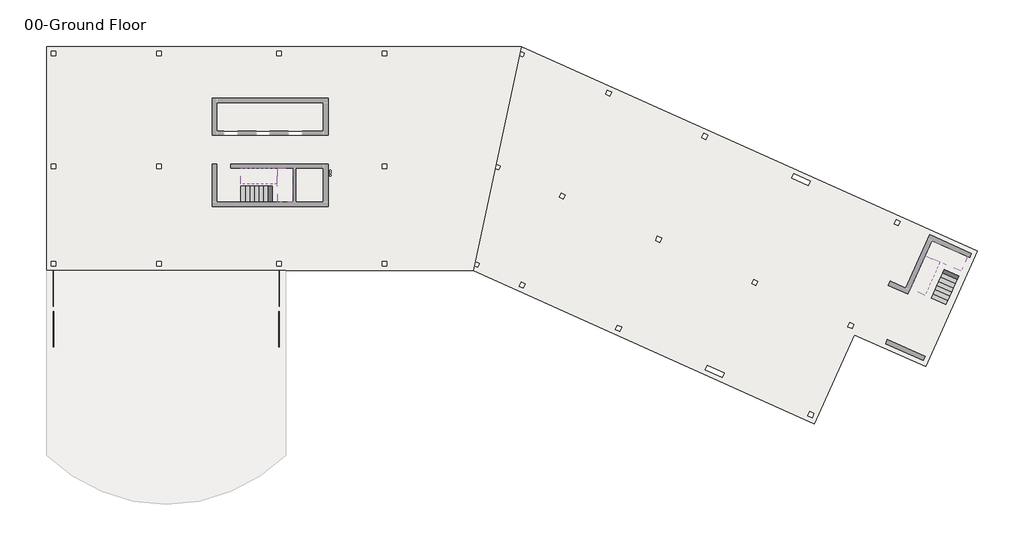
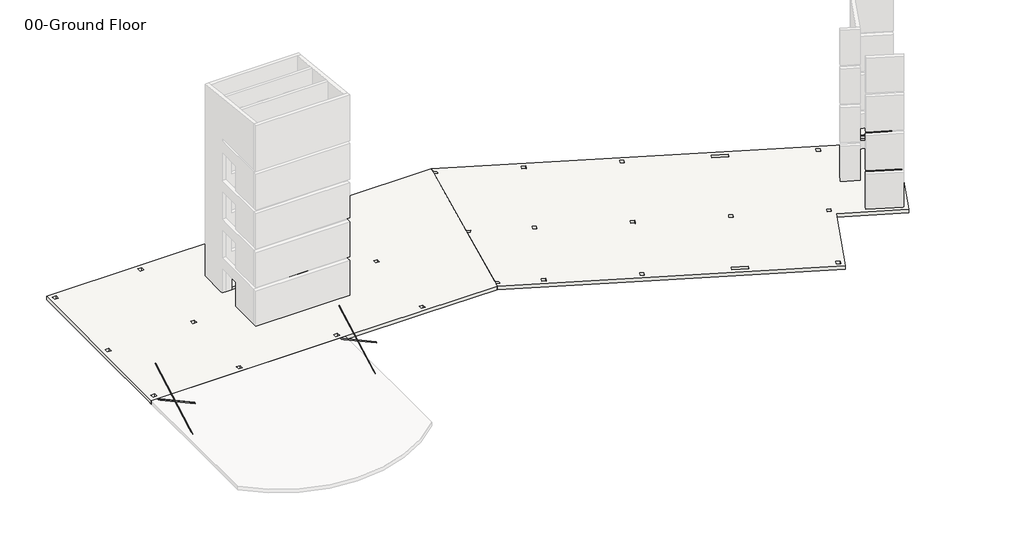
# One storey, part 2 of 2: 4 members, 4 slabs, 4 stair flights.
"""IFC4 building model written with IfcOpenShell, lengths in millimetres."""

from ifc_helpers import new_model, si_unit, frame, origin, place, context, project, spatial, polyline, circle_curve, faceted_brep, transform, mapped, element, save
from ifc_brep_helpers import plane_surface, revolved_surface, advanced_brep
from components import flat_bars_fl_3_8x4_f1b121f7, flat_bars_fl_3_8x4_35c656aa, flat_bars_fl_3_8x4_188fb4ee, flat_bars_fl_3_8x4_168c0369

model = new_model("IFC4")

# Units and contexts
model_context = context("Model", 3, world=origin())
ifc_project = project(units=[si_unit("LENGTHUNIT", "METRE", prefix="MILLI")], contexts=[model_context])

# Site, building, storey
site = spatial("IfcSite", under=ifc_project)
building = spatial("IfcBuilding", under=site)
storey = spatial("IfcBuildingStorey", under=building, Name="00-Ground Floor", Elevation=0.0)

# Members
placement = place(None, origin())
flat_bars_fl_3_8x4_shape = flat_bars_fl_3_8x4_f1b121f7(model_context)
element("IfcMember", 1, ObjectType="Flat Bars : FL 3/8X4", at=placement, inside=storey, context=model_context, shape_type="MappedRepresentation", body=[
    mapped(flat_bars_fl_3_8x4_shape, transform((14998.7, -16998.95, 1344.93), x_axis=(0.0, -0.8764896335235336, 0.48142073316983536), y_axis=(1.0, 0.0, 0.0), z_axis=(0.0, 0.48142073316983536, 0.8764896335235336))),
])
flat_bars_fl_3_8x4_2_shape = flat_bars_fl_3_8x4_35c656aa(model_context)
element("IfcMember", 2, ObjectType="Flat Bars : FL 3/8X4", at=placement, inside=storey, context=model_context, shape_type="MappedRepresentation", body=[
    mapped(flat_bars_fl_3_8x4_2_shape, transform((14989.175, -16998.95, 1344.93), x_axis=(0.0, 0.8764896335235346, 0.4814207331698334), y_axis=(-1.0, 0.0, 0.0), z_axis=(0.0, -0.4814207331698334, 0.8764896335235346))),
])
flat_bars_fl_3_8x4_3_shape = flat_bars_fl_3_8x4_188fb4ee(model_context)
element("IfcMember", 3, ObjectType="Flat Bars : FL 3/8X4", at=placement, inside=storey, context=model_context, shape_type="MappedRepresentation", body=[
    mapped(flat_bars_fl_3_8x4_3_shape, transform((9.525, -16998.95, 1344.93), x_axis=(0.0, 0.8764896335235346, 0.4814207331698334), y_axis=(-1.0, 0.0, 0.0), z_axis=(0.0, -0.4814207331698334, 0.8764896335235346))),
])
flat_bars_fl_3_8x4_4_shape = flat_bars_fl_3_8x4_168c0369(model_context)
element("IfcMember", 4, ObjectType="Flat Bars : FL 3/8X4", at=placement, inside=storey, context=model_context, shape_type="MappedRepresentation", body=[
    mapped(flat_bars_fl_3_8x4_4_shape, transform((0.0, -16998.95, 1344.93), x_axis=(0.0, -0.8764896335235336, 0.48142073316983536), y_axis=(1.0, 0.0, 0.0), z_axis=(0.0, 0.48142073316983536, 0.8764896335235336))),
])

# Slabs
element("IfcSlab", 5, ObjectType="7\" Thickness", at=placement, inside=storey, context=model_context, shape_type="Brep", body=[
    faceted_brep([(14884.4, -8826.5, 1775.0117647), (14903.45, -8826.5, 1775.0117647), (14903.45, -9893.3, 1775.0117647), (15167.2458186, -9893.3, 1775.0117647), (15951.2, -9893.3, 1775.0117647), (15951.2, -7633.3081651, 1775.0117647), (14906.3541814, -7633.3081651, 1775.0117647), (14884.4, -7633.3081651, 1775.0117647), (14865.35, -7633.3081651, 1775.0117647), (14865.35, -8700.1081651, 1775.0117647), (14884.4, -8700.1081651, 1775.0117647), (14884.4, -8826.5, 1597.2117647), (14903.45, -8826.5, 1597.2117647), (14903.45, -8826.5, 1577.7882353), (14903.45, -8826.5, 1426.5203527), (14903.45, -9893.3, 1426.5203527), (14903.45, -9893.3, 1577.7882353), (15167.2458186, -9893.3, 1597.2117647), (15951.2, -9893.3, 1597.2117647), (15951.2, -7633.3081651, 1597.2117647), (14906.3541814, -7633.3081651, 1597.2117647), (14884.4, -7633.3081651, 1611.4174115), (14865.35, -7633.3081651, 1623.7438821), (14865.35, -8700.1081651, 1623.7438821), (14884.4, -8700.1081651, 1611.4174115), (14884.4, -8700.1081651, 1597.2117647), (14906.3541814, -8700.1081651, 1597.2117647), (15167.2458186, -8826.5, 1597.2117647)], [[[0, 1, 2, 3, 4, 5, 6, 7, 8, 9, 10]], [[1, 0, 11, 12]], [[2, 1, 12, 13, 14, 15, 16]], [[2, 16, 15, 17, 18, 4, 3]], [[5, 4, 18, 19]], [[5, 19, 20, 21, 7, 6]], [[8, 7, 21, 22]], [[9, 8, 22, 23]], [[10, 9, 23, 24]], [[0, 10, 24, 25, 11]], [[25, 26, 20, 19, 18, 17, 27, 12, 11]], [[26, 25, 24]], [[27, 17, 15, 14]], [[12, 27, 14, 13]], [[20, 26, 24, 23, 22, 21]]]),
])
element("IfcSlab", 6, ObjectType="7\" Thickness", at=placement, inside=storey, context=model_context, shape_type="Brep", body=[
    faceted_brep([(59335.95414, -14064.6614634, 1775.0117647), (59343.7599937, -14047.2841463, 1775.0117647), (60316.8897498, -14484.4119512, 1775.0117647), (60424.981695, -14243.7786923, 1775.0117647), (60746.211701, -13528.6595122, 1775.0117647), (58382.896579, -12467.0634146, 1775.0117647), (57954.7646338, -13420.1666736, 1775.0117647), (57945.7687742, -13440.1931707, 1775.0117647), (57937.9629205, -13457.5704878, 1775.0117647), (58911.0926766, -13894.6982927, 1775.0117647), (58918.8985303, -13877.3209756, 1775.0117647), (59335.95414, -14064.6614634, 1597.2117647), (59343.7599937, -14047.2841463, 1597.2117647), (59343.7599937, -14047.2841463, 1577.7882353), (59343.7599937, -14047.2841463, 1426.5203527), (60316.8897498, -14484.4119512, 1426.5203527), (60316.8897498, -14484.4119512, 1577.7882353), (60424.981695, -14243.7786923, 1597.2117647), (60746.211701, -13528.6595122, 1597.2117647), (58382.896579, -12467.0634146, 1597.2117647), (57954.7646338, -13420.1666736, 1597.2117647), (57945.7687742, -13440.1931707, 1611.4174115), (57937.9629205, -13457.5704878, 1623.7438821), (58911.0926766, -13894.6982927, 1623.7438821), (58918.8985303, -13877.3209756, 1611.4174115), (58918.8985303, -13877.3209756, 1597.2117647), (58927.8943899, -13857.2944785, 1597.2117647), (59451.8519389, -13806.6508874, 1597.2117647)], [[[0, 1, 2, 3, 4, 5, 6, 7, 8, 9, 10]], [[1, 0, 11, 12]], [[2, 1, 12, 13, 14, 15, 16]], [[2, 16, 15, 17, 18, 4, 3]], [[5, 4, 18, 19]], [[5, 19, 20, 21, 7, 6]], [[8, 7, 21, 22]], [[9, 8, 22, 23]], [[10, 9, 23, 24]], [[0, 10, 24, 25, 11]], [[25, 26, 20, 19, 18, 17, 27, 12, 11]], [[26, 25, 24]], [[27, 17, 15, 14]], [[12, 27, 14, 13]], [[20, 26, 24, 23, 22, 21]]]),
])
element("IfcSlab", 7, ObjectType="RC Slab 12\"", at=placement, inside=storey, context=model_context, shape_type="SolidModel", body=[
    faceted_brep([(10858.5, -3289.3, -304.8), (12738.1, -3289.3, -304.8), (12992.1, -3289.3, -304.8), (14871.7, -3289.3, -304.8), (15125.7, -3289.3, -304.8), (17945.1, -3289.3, -304.8), (17945.1, -5168.9, -304.8), (15125.7, -5168.9, -304.8), (14871.7, -5168.9, -304.8), (12992.1, -5168.9, -304.8), (12738.1, -5168.9, -304.8), (10858.5, -5168.9, -304.8), (17945.1, -3289.3, 0.0), (15125.7, -3289.3, 0.0), (14871.7, -3289.3, 0.0), (12992.1, -3289.3, 0.0), (12738.1, -3289.3, 0.0), (10858.5, -3289.3, 0.0), (10858.5, -5168.9, 0.0), (12738.1, -5168.9, 0.0), (12992.1, -5168.9, 0.0), (14871.7, -5168.9, 0.0), (15125.7, -5168.9, 0.0), (17945.1, -5168.9, 0.0)], [[[0, 1, 2, 3, 4, 5, 6, 7, 8, 9, 10, 11]], [[12, 13, 14, 15, 16, 17, 18, 19, 20, 21, 22, 23]], [[5, 4, 3, 2, 1, 0, 17, 16, 15, 14, 13, 12]], [[0, 11, 18, 17]], [[6, 23, 22, 21, 20, 19, 18, 11, 10, 9, 8, 7]], [[6, 5, 12, 23]]]),
    advanced_brep(
    [(-457.2, 457.2, -304.8), (7010.4, 457.2, -304.8), (14998.7, 457.2, -304.8), (22009.1, 457.2, -304.8), (31098.7387393, 457.2, -304.8), (30902.7958822, -457.2, -304.8), (28099.7244536, -13538.2, -304.8), (27903.7815965, -14452.6, -304.8), (22009.1, -14452.6, -304.8), (15455.9, -14452.6, -304.8), (-457.2, -14452.6, -304.8), (-457.2, -13995.4, -304.8), (-457.2, -7505.7, -304.8), (18347.8020543, -8109.4381113, -304.8), (18449.4020543, -8109.4381113, -304.8), (18347.8020543, -7957.0381113, -304.8), (18449.4020543, -7957.0381113, -304.8), (18347.8020543, -7804.6381113, -304.8), (18449.4020543, -7804.6381113, -304.8), (152.4, -152.4, -304.8), (152.4, 152.4, -304.8), (-152.4, 152.4, -304.8), (-152.4, -152.4, -304.8), (7162.8, -152.4, -304.8), (7162.8, 152.4, -304.8), (6858.0, 152.4, -304.8), (6858.0, -152.4, -304.8), (15151.1, -152.4, -304.8), (15151.1, 152.4, -304.8), (14846.3, 152.4, -304.8), (14846.3, -152.4, -304.8), (22161.5, -152.4, -304.8), (22161.5, 152.4, -304.8), (21856.7, 152.4, -304.8), (21856.7, -152.4, -304.8), (22161.5, -7658.1, -304.8), (22161.5, -7353.3, -304.8), (21856.7, -7353.3, -304.8), (21856.7, -7658.1, -304.8), (7162.8, -7658.1, -304.8), (7162.8, -7353.3, -304.8), (6858.0, -7353.3, -304.8), (6858.0, -7658.1, -304.8), (152.4, -7658.1, -304.8), (152.4, -7353.3, -304.8), (-152.4, -7353.3, -304.8), (-152.4, -7658.1, -304.8), (152.4, -14147.8, -304.8), (152.4, -13843.0, -304.8), (-152.4, -13843.0, -304.8), (-152.4, -14147.8, -304.8), (15151.1, -14147.8, -304.8), (15151.1, -13843.0, -304.8), (14846.3, -13843.0, -304.8), (14846.3, -14147.8, -304.8), (22161.5, -14147.8, -304.8), (22161.5, -13843.0, -304.8), (21856.7, -13843.0, -304.8), (21856.7, -14147.8, -304.8), (7162.8, -14147.8, -304.8), (7162.8, -13843.0, -304.8), (6858.0, -13843.0, -304.8), (6858.0, -14147.8, -304.8), (10553.7, -5422.9, -304.8), (18249.9, -5422.9, -304.8), (18249.9, -2984.5, -304.8), (15252.7, -2984.5, -304.8), (14744.7, -2984.5, -304.8), (10553.7, -2984.5, -304.8), (31098.7387393, 457.2, 0.0), (-457.2, 457.2, 0.0), (-457.2, -14452.6, 0.0), (15455.9, -14452.6, 0.0), (27903.7815965, -14452.6, 0.0), (18449.4020543, -8109.4381113, 0.0), (18347.8020543, -8109.4381113, 0.0), (18449.4020543, -7957.0381113, 0.0), (18347.8020543, -7957.0381113, 0.0), (18449.4020543, -7804.6381113, 0.0), (18347.8020543, -7804.6381113, 0.0), (18249.9, -2984.5, 0.0), (18249.9, -3289.3, 0.0), (18249.9, -5422.9, 0.0), (17945.1, -5422.9, 0.0), (10553.7, -5422.9, 0.0), (10553.7, -5168.9, 0.0), (10553.7, -2984.5, 0.0), (10858.5, -2984.5, 0.0), (152.4, 152.4, 0.0), (152.4, -152.4, 0.0), (-152.4, -152.4, 0.0), (-152.4, 152.4, 0.0), (7162.8, 152.4, 0.0), (7162.8, -152.4, 0.0), (6858.0, -152.4, 0.0), (6858.0, 152.4, 0.0), (15151.1, 152.4, 0.0), (15151.1, -152.4, 0.0), (14846.3, -152.4, 0.0), (14846.3, 152.4, 0.0), (22161.5, 152.4, 0.0), (22161.5, -152.4, 0.0), (21856.7, -152.4, 0.0), (21856.7, 152.4, 0.0), (22161.5, -7353.3, 0.0), (22161.5, -7658.1, 0.0), (21856.7, -7658.1, 0.0), (21856.7, -7353.3, 0.0), (7162.8, -7353.3, 0.0), (7162.8, -7658.1, 0.0), (6858.0, -7658.1, 0.0), (6858.0, -7353.3, 0.0), (152.4, -7353.3, 0.0), (152.4, -7658.1, 0.0), (-152.4, -7658.1, 0.0), (-152.4, -7353.3, 0.0), (152.4, -13843.0, 0.0), (152.4, -14147.8, 0.0), (-152.4, -14147.8, 0.0), (-152.4, -13843.0, 0.0), (15151.1, -13843.0, 0.0), (15151.1, -14147.8, 0.0), (14846.3, -14147.8, 0.0), (14846.3, -13843.0, 0.0), (22161.5, -13843.0, 0.0), (22161.5, -14147.8, 0.0), (21856.7, -14147.8, 0.0), (21856.7, -13843.0, 0.0), (7162.8, -13843.0, 0.0), (7162.8, -14147.8, 0.0), (6858.0, -14147.8, 0.0), (6858.0, -13843.0, 0.0)],
    [
        (0, 1),
        (1, 2),
        (2, 3),
        (3, 4),
        (4, 5),
        (5, 6),
        (6, 7),
        (7, 8),
        (8, 9),
        (9, 10),
        (10, 11),
        (11, 12),
        (12, 0),
        (13, 14, circle_curve(frame((18398.6020543, -8109.4381113, -304.8), z_axis=(0.0, 0.0, 1.0), x_axis=(1.0, 0.0, 0.0)), 50.8)),
        (14, 13, circle_curve(frame((18398.6020543, -8109.4381113, -304.8), z_axis=(0.0, 0.0, 1.0), x_axis=(1.0, 0.0, 0.0)), 50.8)),
        (15, 16, circle_curve(frame((18398.6020543, -7957.0381113, -304.8), z_axis=(0.0, 0.0, 1.0), x_axis=(1.0, 0.0, 0.0)), 50.8)),
        (16, 15, circle_curve(frame((18398.6020543, -7957.0381113, -304.8), z_axis=(0.0, 0.0, 1.0), x_axis=(1.0, 0.0, 0.0)), 50.8)),
        (17, 18, circle_curve(frame((18398.6020543, -7804.6381113, -304.8), z_axis=(0.0, 0.0, 1.0), x_axis=(1.0, 0.0, 0.0)), 50.8)),
        (18, 17, circle_curve(frame((18398.6020543, -7804.6381113, -304.8), z_axis=(0.0, 0.0, 1.0), x_axis=(1.0, 0.0, 0.0)), 50.8)),
        (19, 20),
        (20, 21),
        (21, 22),
        (22, 19),
        (23, 24),
        (24, 25),
        (25, 26),
        (26, 23),
        (27, 28),
        (28, 29),
        (29, 30),
        (30, 27),
        (31, 32),
        (32, 33),
        (33, 34),
        (34, 31),
        (35, 36),
        (36, 37),
        (37, 38),
        (38, 35),
        (39, 40),
        (40, 41),
        (41, 42),
        (42, 39),
        (43, 44),
        (44, 45),
        (45, 46),
        (46, 43),
        (47, 48),
        (48, 49),
        (49, 50),
        (50, 47),
        (51, 52),
        (52, 53),
        (53, 54),
        (54, 51),
        (55, 56),
        (56, 57),
        (57, 58),
        (58, 55),
        (59, 60),
        (60, 61),
        (61, 62),
        (62, 59),
        (63, 64),
        (64, 65),
        (65, 66),
        (66, 67),
        (67, 68),
        (68, 63),
        (69, 70),
        (70, 71),
        (71, 72),
        (72, 73),
        (73, 69),
        (74, 75, circle_curve(frame((18398.6020543, -8109.4381113, 0.0), z_axis=(0.0, 0.0, -1.0), x_axis=(1.0, 0.0, 0.0)), 50.8)),
        (75, 74, circle_curve(frame((18398.6020543, -8109.4381113, 0.0), z_axis=(0.0, 0.0, -1.0), x_axis=(1.0, 0.0, 0.0)), 50.8)),
        (76, 77, circle_curve(frame((18398.6020543, -7957.0381113, 0.0), z_axis=(0.0, 0.0, -1.0), x_axis=(1.0, 0.0, 0.0)), 50.8)),
        (77, 76, circle_curve(frame((18398.6020543, -7957.0381113, 0.0), z_axis=(0.0, 0.0, -1.0), x_axis=(1.0, 0.0, 0.0)), 50.8)),
        (78, 79, circle_curve(frame((18398.6020543, -7804.6381113, 0.0), z_axis=(0.0, 0.0, -1.0), x_axis=(1.0, 0.0, 0.0)), 50.8)),
        (79, 78, circle_curve(frame((18398.6020543, -7804.6381113, 0.0), z_axis=(0.0, 0.0, -1.0), x_axis=(1.0, 0.0, 0.0)), 50.8)),
        (80, 81),
        (81, 82),
        (82, 83),
        (83, 84),
        (84, 85),
        (85, 86),
        (86, 87),
        (87, 80),
        (88, 89),
        (89, 90),
        (90, 91),
        (91, 88),
        (92, 93),
        (93, 94),
        (94, 95),
        (95, 92),
        (96, 97),
        (97, 98),
        (98, 99),
        (99, 96),
        (100, 101),
        (101, 102),
        (102, 103),
        (103, 100),
        (104, 105),
        (105, 106),
        (106, 107),
        (107, 104),
        (108, 109),
        (109, 110),
        (110, 111),
        (111, 108),
        (112, 113),
        (113, 114),
        (114, 115),
        (115, 112),
        (116, 117),
        (117, 118),
        (118, 119),
        (119, 116),
        (120, 121),
        (121, 122),
        (122, 123),
        (123, 120),
        (124, 125),
        (125, 126),
        (126, 127),
        (127, 124),
        (128, 129),
        (129, 130),
        (130, 131),
        (131, 128),
        (0, 70),
        (69, 4),
        (73, 7),
        (71, 10),
        (13, 75),
        (74, 14),
        (15, 77),
        (76, 16),
        (17, 79),
        (78, 18),
        (65, 80),
        (86, 68),
        (64, 82),
        (84, 63),
        (19, 89),
        (88, 20),
        (22, 90),
        (21, 91),
        (23, 93),
        (92, 24),
        (26, 94),
        (25, 95),
        (27, 97),
        (96, 28),
        (30, 98),
        (29, 99),
        (31, 101),
        (100, 32),
        (34, 102),
        (33, 103),
        (35, 105),
        (104, 36),
        (38, 106),
        (37, 107),
        (39, 109),
        (108, 40),
        (42, 110),
        (41, 111),
        (43, 113),
        (112, 44),
        (46, 114),
        (45, 115),
        (47, 117),
        (116, 48),
        (50, 118),
        (49, 119),
        (51, 121),
        (120, 52),
        (54, 122),
        (53, 123),
        (55, 125),
        (124, 56),
        (58, 126),
        (57, 127),
        (59, 129),
        (128, 60),
        (62, 130),
        (61, 131),
    ],
    [
        plane_surface(frame((0.0, 457.2, -304.8), z_axis=(0.0, 0.0, -1.0), x_axis=(1.0, 0.0, 0.0))),
        plane_surface(frame((0.0, 457.2, 0.0), z_axis=(0.0, 0.0, 1.0), x_axis=(-1.0, 0.0, 0.0))),
        plane_surface(frame((-457.2, 457.2, -304.8), z_axis=(0.0, 1.0, 0.0), x_axis=(0.0, 0.0, 1.0))),
        plane_surface(frame((31098.7387393, 457.2, -304.8), z_axis=(0.9778024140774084, -0.2095290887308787, 0.0), x_axis=(0.0, 0.0, 1.0))),
        plane_surface(frame((27903.7815965, -14452.6, -304.8), z_axis=(0.0, -1.0, 0.0), x_axis=(0.0, 0.0, 1.0))),
        plane_surface(frame((-457.2, -14452.6, -304.8), z_axis=(-1.0, 0.0, 0.0), x_axis=(0.0, 0.0, 1.0))),
        revolved_surface(polyline([(18449.4020543, -8109.4381113, 0.0), (18449.4020543, -8109.4381113, -304.8)]), (18398.6020543, -8109.4381113, -609.6), (0.0, 0.0, 1.0)),
        revolved_surface(polyline([(18449.4020543, -7957.0381113, 0.0), (18449.4020543, -7957.0381113, -304.8)]), (18398.6020543, -7957.0381113, -609.6), (0.0, 0.0, 1.0)),
        revolved_surface(polyline([(18449.4020543, -7804.6381113, 0.0), (18449.4020543, -7804.6381113, -304.8)]), (18398.6020543, -7804.6381113, -609.6), (0.0, 0.0, 1.0)),
        plane_surface(frame((17694.8895727, -2984.5, -2133.6), z_axis=(0.0, -1.0, 0.0), x_axis=(-1.0, 0.0, 0.0))),
        plane_surface(frame((18249.9, -6083.3, -2133.6), z_axis=(-1.0, 0.0, 0.0), x_axis=(0.0, 1.0, 0.0))),
        plane_surface(frame((10553.7, -5829.3, -2133.6), z_axis=(1.0, 0.0, 0.0), x_axis=(0.0, -1.0, 0.0))),
        plane_surface(frame((10706.1, -5422.9, -2133.6), z_axis=(0.0, 1.0, 0.0), x_axis=(1.0, 0.0, 0.0))),
        plane_surface(frame((152.4, -152.4, 10058.4), z_axis=(-1.0, 0.0, 0.0), x_axis=(0.0, 0.0, -1.0))),
        plane_surface(frame((-152.4, -152.4, 10058.4), z_axis=(0.0, 1.0, 0.0), x_axis=(0.0, 0.0, -1.0))),
        plane_surface(frame((-152.4, 152.4, 10058.4), z_axis=(1.0, 0.0, 0.0), x_axis=(0.0, 0.0, -1.0))),
        plane_surface(frame((152.4, 152.4, 10058.4), z_axis=(0.0, -1.0, 0.0), x_axis=(0.0, 0.0, -1.0))),
        plane_surface(frame((7162.8, -152.4, 10058.4), z_axis=(-1.0, 0.0, 0.0), x_axis=(0.0, 0.0, -1.0))),
        plane_surface(frame((6858.0, -152.4, 10058.4), z_axis=(0.0, 1.0, 0.0), x_axis=(0.0, 0.0, -1.0))),
        plane_surface(frame((6858.0, 152.4, 10058.4), z_axis=(1.0, 0.0, 0.0), x_axis=(0.0, 0.0, -1.0))),
        plane_surface(frame((7162.8, 152.4, 10058.4), z_axis=(0.0, -1.0, 0.0), x_axis=(0.0, 0.0, -1.0))),
        plane_surface(frame((15151.1, -152.4, 10058.4), z_axis=(-1.0, 0.0, 0.0), x_axis=(0.0, 0.0, -1.0))),
        plane_surface(frame((14846.3, -152.4, 10058.4), z_axis=(0.0, 1.0, 0.0), x_axis=(0.0, 0.0, -1.0))),
        plane_surface(frame((14846.3, 152.4, 10058.4), z_axis=(1.0, 0.0, 0.0), x_axis=(0.0, 0.0, -1.0))),
        plane_surface(frame((15151.1, 152.4, 10058.4), z_axis=(0.0, -1.0, 0.0), x_axis=(0.0, 0.0, -1.0))),
        plane_surface(frame((22161.5, -152.4, 10058.4), z_axis=(-1.0, 0.0, 0.0), x_axis=(0.0, 0.0, -1.0))),
        plane_surface(frame((21856.7, -152.4, 10058.4), z_axis=(0.0, 1.0, 0.0), x_axis=(0.0, 0.0, -1.0))),
        plane_surface(frame((21856.7, 152.4, 10058.4), z_axis=(1.0, 0.0, 0.0), x_axis=(0.0, 0.0, -1.0))),
        plane_surface(frame((22161.5, 152.4, 10058.4), z_axis=(0.0, -1.0, 0.0), x_axis=(0.0, 0.0, -1.0))),
        plane_surface(frame((22161.5, -7658.1, 10058.4), z_axis=(-1.0, 0.0, 0.0), x_axis=(0.0, 0.0, -1.0))),
        plane_surface(frame((21856.7, -7658.1, 10058.4), z_axis=(0.0, 1.0, 0.0), x_axis=(0.0, 0.0, -1.0))),
        plane_surface(frame((21856.7, -7353.3, 10058.4), z_axis=(1.0, 0.0, 0.0), x_axis=(0.0, 0.0, -1.0))),
        plane_surface(frame((22161.5, -7353.3, 10058.4), z_axis=(0.0, -1.0, 0.0), x_axis=(0.0, 0.0, -1.0))),
        plane_surface(frame((7162.8, -7658.1, 10058.4), z_axis=(-1.0, 0.0, 0.0), x_axis=(0.0, 0.0, -1.0))),
        plane_surface(frame((6858.0, -7658.1, 10058.4), z_axis=(0.0, 1.0, 0.0), x_axis=(0.0, 0.0, -1.0))),
        plane_surface(frame((6858.0, -7353.3, 10058.4), z_axis=(1.0, 0.0, 0.0), x_axis=(0.0, 0.0, -1.0))),
        plane_surface(frame((7162.8, -7353.3, 10058.4), z_axis=(0.0, -1.0, 0.0), x_axis=(0.0, 0.0, -1.0))),
        plane_surface(frame((152.4, -7658.1, 10058.4), z_axis=(-1.0, 0.0, 0.0), x_axis=(0.0, 0.0, -1.0))),
        plane_surface(frame((-152.4, -7658.1, 10058.4), z_axis=(0.0, 1.0, 0.0), x_axis=(0.0, 0.0, -1.0))),
        plane_surface(frame((-152.4, -7353.3, 10058.4), z_axis=(1.0, 0.0, 0.0), x_axis=(0.0, 0.0, -1.0))),
        plane_surface(frame((152.4, -7353.3, 10058.4), z_axis=(0.0, -1.0, 0.0), x_axis=(0.0, 0.0, -1.0))),
        plane_surface(frame((152.4, -14147.8, 10058.4), z_axis=(-1.0, 0.0, 0.0), x_axis=(0.0, 0.0, -1.0))),
        plane_surface(frame((-152.4, -14147.8, 10058.4), z_axis=(0.0, 1.0, 0.0), x_axis=(0.0, 0.0, -1.0))),
        plane_surface(frame((-152.4, -13843.0, 10058.4), z_axis=(1.0, 0.0, 0.0), x_axis=(0.0, 0.0, -1.0))),
        plane_surface(frame((152.4, -13843.0, 10058.4), z_axis=(0.0, -1.0, 0.0), x_axis=(0.0, 0.0, -1.0))),
        plane_surface(frame((15151.1, -14147.8, 10058.4), z_axis=(-1.0, 0.0, 0.0), x_axis=(0.0, 0.0, -1.0))),
        plane_surface(frame((14846.3, -14147.8, 10058.4), z_axis=(0.0, 1.0, 0.0), x_axis=(0.0, 0.0, -1.0))),
        plane_surface(frame((14846.3, -13843.0, 10058.4), z_axis=(1.0, 0.0, 0.0), x_axis=(0.0, 0.0, -1.0))),
        plane_surface(frame((15151.1, -13843.0, 10058.4), z_axis=(0.0, -1.0, 0.0), x_axis=(0.0, 0.0, -1.0))),
        plane_surface(frame((22161.5, -14147.8, 10058.4), z_axis=(-1.0, 0.0, 0.0), x_axis=(0.0, 0.0, -1.0))),
        plane_surface(frame((21856.7, -14147.8, 10058.4), z_axis=(0.0, 1.0, 0.0), x_axis=(0.0, 0.0, -1.0))),
        plane_surface(frame((21856.7, -13843.0, 10058.4), z_axis=(1.0, 0.0, 0.0), x_axis=(0.0, 0.0, -1.0))),
        plane_surface(frame((22161.5, -13843.0, 10058.4), z_axis=(0.0, -1.0, 0.0), x_axis=(0.0, 0.0, -1.0))),
        plane_surface(frame((7162.8, -14147.8, 10058.4), z_axis=(-1.0, 0.0, 0.0), x_axis=(0.0, 0.0, -1.0))),
        plane_surface(frame((6858.0, -14147.8, 10058.4), z_axis=(0.0, 1.0, 0.0), x_axis=(0.0, 0.0, -1.0))),
        plane_surface(frame((6858.0, -13843.0, 10058.4), z_axis=(1.0, 0.0, 0.0), x_axis=(0.0, 0.0, -1.0))),
        plane_surface(frame((7162.8, -13843.0, 10058.4), z_axis=(0.0, -1.0, 0.0), x_axis=(0.0, 0.0, -1.0))),
    ],
    [
        (0, [[1, 2, 3, 4, 5, 6, 7, 8, 9, 10, 11, 12, 13], [14, 15], [16, 17], [18, 19], [20, 21, 22, 23], [24, 25, 26, 27], [28, 29, 30, 31], [32, 33, 34, 35], [36, 37, 38, 39], [40, 41, 42, 43], [44, 45, 46, 47], [48, 49, 50, 51], [52, 53, 54, 55], [56, 57, 58, 59], [60, 61, 62, 63], [64, 65, 66, 67, 68, 69]]),
        (1, [[70, 71, 72, 73, 74], [75, 76], [77, 78], [79, 80], [81, 82, 83, 84, 85, 86, 87, 88], [89, 90, 91, 92], [93, 94, 95, 96], [97, 98, 99, 100], [101, 102, 103, 104], [105, 106, 107, 108], [109, 110, 111, 112], [113, 114, 115, 116], [117, 118, 119, 120], [121, 122, 123, 124], [125, 126, 127, 128], [129, 130, 131, 132]]),
        (2, [[-4, -3, -2, -1, 133, -70, 134]]),
        (3, [[-7, -6, -5, -134, -74, 135]]),
        (4, [[-10, -9, -8, -135, -73, -72, 136]]),
        (5, [[-13, -12, -11, -136, -71, -133]]),
        (6, [[137, -75, 138, -14]]),
        (6, [[-137, -15, -138, -76]]),
        (7, [[139, -77, 140, -16]]),
        (7, [[-139, -17, -140, -78]]),
        (8, [[141, -79, 142, -18]]),
        (8, [[-141, -19, -142, -80]]),
        (9, [[143, -88, -87, 144, -68, -67, -66]]),
        (10, [[-143, -65, 145, -82, -81]]),
        (11, [[-144, -86, -85, 146, -69]]),
        (12, [[-146, -84, -83, -145, -64]]),
        (13, [[147, -89, 148, -20]]),
        (14, [[-147, -23, 149, -90]]),
        (15, [[-149, -22, 150, -91]]),
        (16, [[-150, -21, -148, -92]]),
        (17, [[151, -93, 152, -24]]),
        (18, [[-151, -27, 153, -94]]),
        (19, [[-153, -26, 154, -95]]),
        (20, [[-154, -25, -152, -96]]),
        (21, [[155, -97, 156, -28]]),
        (22, [[-155, -31, 157, -98]]),
        (23, [[-157, -30, 158, -99]]),
        (24, [[-158, -29, -156, -100]]),
        (25, [[159, -101, 160, -32]]),
        (26, [[-159, -35, 161, -102]]),
        (27, [[-161, -34, 162, -103]]),
        (28, [[-162, -33, -160, -104]]),
        (29, [[163, -105, 164, -36]]),
        (30, [[-163, -39, 165, -106]]),
        (31, [[-165, -38, 166, -107]]),
        (32, [[-166, -37, -164, -108]]),
        (33, [[167, -109, 168, -40]]),
        (34, [[-167, -43, 169, -110]]),
        (35, [[-169, -42, 170, -111]]),
        (36, [[-170, -41, -168, -112]]),
        (37, [[171, -113, 172, -44]]),
        (38, [[-171, -47, 173, -114]]),
        (39, [[-173, -46, 174, -115]]),
        (40, [[-174, -45, -172, -116]]),
        (41, [[175, -117, 176, -48]]),
        (42, [[-175, -51, 177, -118]]),
        (43, [[-177, -50, 178, -119]]),
        (44, [[-178, -49, -176, -120]]),
        (45, [[179, -121, 180, -52]]),
        (46, [[-179, -55, 181, -122]]),
        (47, [[-181, -54, 182, -123]]),
        (48, [[-182, -53, -180, -124]]),
        (49, [[183, -125, 184, -56]]),
        (50, [[-183, -59, 185, -126]]),
        (51, [[-185, -58, 186, -127]]),
        (52, [[-186, -57, -184, -128]]),
        (53, [[187, -129, 188, -60]]),
        (54, [[-187, -63, 189, -130]]),
        (55, [[-189, -62, 190, -131]]),
        (56, [[-190, -61, -188, -132]]),
    ],
),
])
element("IfcSlab", 8, ObjectType="RC Slab 12\"", at=placement, inside=storey, context=model_context, shape_type="Brep", body=[
    faceted_brep([(61413.0546278, -13159.9258537, -304.8), (57962.8673107, -20840.7, -304.8), (53236.2370668, -18717.5078049, -304.8), (50577.0429205, -24637.3804878, -304.8), (37370.2819449, -18704.9317073, -304.8), (27903.7815965, -14452.6, -304.8), (27969.0988162, -14147.786308, -304.8), (28217.3432689, -14259.3121951, -304.8), (28342.2369275, -13981.275122, -304.8), (28034.4045592, -13843.0124873, -304.8), (28099.7244536, -13538.2, -304.8), (29359.7488162, -7658.086308, -304.8), (29607.9932689, -7769.6121951, -304.8), (29732.8869275, -7491.575122, -304.8), (29425.0545592, -7353.3124873, -304.8), (30902.7958822, -457.2, -304.8), (30968.1131019, -152.386308, -304.8), (31216.3575546, -263.9121951, -304.8), (31341.2512132, 14.124878, -304.8), (31033.4188449, 152.3875127, -304.8), (31098.7387393, 457.2, -304.8), (43479.6634083, -5104.284878, -304.8), (37098.9356034, -2572.2146341, -304.8), (36820.8985303, -2447.3209756, -304.8), (36696.0048717, -2725.3580488, -304.8), (36974.0419449, -2850.2517073, -304.8), (43493.7882864, -5444.7687805, -304.8), (43215.7512132, -5319.875122, -304.8), (43090.8575546, -5597.9121951, -304.8), (43368.8946278, -5722.8058537, -304.8), (56283.4936522, -11189.8770732, -304.8), (56005.456579, -11064.9834146, -304.8), (55880.5629205, -11343.0204878, -304.8), (56158.5999937, -11467.9141463, -304.8), (53207.9873107, -18036.54, -304.8), (52929.9502376, -17911.6463415, -304.8), (52805.056579, -18189.6834146, -304.8), (53083.0936522, -18314.5770732, -304.8), (50548.7931644, -23956.4126829, -304.8), (50270.7560912, -23831.5190244, -304.8), (50145.8624327, -24109.5560976, -304.8), (50423.8995059, -24234.4497561, -304.8), (37759.0877985, -18211.3043902, -304.8), (37481.0507254, -18086.4107317, -304.8), (37356.1570668, -18364.4478049, -304.8), (37634.19414, -18489.3414634, -304.8), (31364.2351156, -15338.7502439, -304.8), (31086.1980425, -15213.8565854, -304.8), (30961.3043839, -15491.8936585, -304.8), (31239.3414571, -15616.7873171, -304.8), (34023.429262, -9418.877561, -304.8), (33745.3921888, -9293.9839024, -304.8), (33620.4985303, -9572.0209756, -304.8), (33898.5356034, -9696.9146341, -304.8), (40418.2819449, -12291.4317073, -304.8), (40140.2448717, -12166.5380488, -304.8), (40015.3512132, -12444.575122, -304.8), (40293.3882864, -12569.4687805, -304.8), (46813.1346278, -15163.9858537, -304.8), (46535.0975546, -15039.0921951, -304.8), (46410.2038961, -15317.1292683, -304.8), (46688.2409693, -15442.0229268, -304.8), (43333.95414, -21049.6614634, -304.8), (44446.1024327, -21549.2360976, -304.8), (44570.9960912, -21271.1990244, -304.8), (43458.8477985, -20771.6243902, -304.8), (49068.6546278, -8283.1258537, -304.8), (50180.8029205, -8782.7004878, -304.8), (50305.696579, -8504.6634146, -304.8), (49193.5482864, -8005.0887805, -304.8), (57962.8673107, -20840.7, 0.0), (61413.0546278, -13159.9258537, 0.0), (31098.7387393, 457.2, 0.0), (31033.4244536, 152.4, 0.0), (31341.2512132, 14.124878, 0.0), (31216.3575546, -263.9121951, 0.0), (30968.1131019, -152.386308, 0.0), (29425.0601679, -7353.3, 0.0), (29732.8869275, -7491.575122, 0.0), (29607.9932689, -7769.6121951, 0.0), (29359.7488162, -7658.086308, 0.0), (28034.4101679, -13843.0, 0.0), (28342.2369275, -13981.275122, 0.0), (28217.3432689, -14259.3121951, 0.0), (27969.0988162, -14147.786308, 0.0), (27903.7815965, -14452.6, 0.0), (50577.0429205, -24637.3804878, 0.0), (53236.2370668, -18717.5078049, 0.0), (36820.8985303, -2447.3209756, 0.0), (37098.9356034, -2572.2146341, 0.0), (36974.0419449, -2850.2517073, 0.0), (36696.0048717, -2725.3580488, 0.0), (43215.7512132, -5319.875122, 0.0), (43493.7882864, -5444.7687805, 0.0), (43368.8946278, -5722.8058537, 0.0), (43090.8575546, -5597.9121951, 0.0), (56005.456579, -11064.9834146, 0.0), (56283.4936522, -11189.8770732, 0.0), (56158.5999937, -11467.9141463, 0.0), (55880.5629205, -11343.0204878, 0.0), (52929.9502376, -17911.6463415, 0.0), (53207.9873107, -18036.54, 0.0), (53083.0936522, -18314.5770732, 0.0), (52805.056579, -18189.6834146, 0.0), (50270.7560912, -23831.5190244, 0.0), (50548.7931644, -23956.4126829, 0.0), (50423.8995059, -24234.4497561, 0.0), (50145.8624327, -24109.5560976, 0.0), (37481.0507254, -18086.4107317, 0.0), (37759.0877985, -18211.3043902, 0.0), (37634.19414, -18489.3414634, 0.0), (37356.1570668, -18364.4478049, 0.0), (31086.1980425, -15213.8565854, 0.0), (31364.2351156, -15338.7502439, 0.0), (31239.3414571, -15616.7873171, 0.0), (30961.3043839, -15491.8936585, 0.0), (33745.3921888, -9293.9839024, 0.0), (34023.429262, -9418.877561, 0.0), (33898.5356034, -9696.9146341, 0.0), (33620.4985303, -9572.0209756, 0.0), (40140.2448717, -12166.5380488, 0.0), (40418.2819449, -12291.4317073, 0.0), (40293.3882864, -12569.4687805, 0.0), (40015.3512132, -12444.575122, 0.0), (46535.0975546, -15039.0921951, 0.0), (46813.1346278, -15163.9858537, 0.0), (46688.2409693, -15442.0229268, 0.0), (46410.2038961, -15317.1292683, 0.0), (44446.1024327, -21549.2360976, 0.0), (43333.95414, -21049.6614634, 0.0), (43458.8477985, -20771.6243902, 0.0), (44570.9960912, -21271.1990244, 0.0), (50180.8029205, -8782.7004878, 0.0), (49068.6546278, -8283.1258537, 0.0), (49193.5482864, -8005.0887805, 0.0), (50305.696579, -8504.6634146, 0.0)], [[[0, 1, 2, 3, 4, 5, 6, 7, 8, 9, 10, 11, 12, 13, 14, 15, 16, 17, 18, 19, 20, 21], [22, 23, 24, 25], [26, 27, 28, 29], [30, 31, 32, 33], [34, 35, 36, 37], [38, 39, 40, 41], [42, 43, 44, 45], [46, 47, 48, 49], [50, 51, 52, 53], [54, 55, 56, 57], [58, 59, 60, 61], [62, 63, 64, 65], [66, 67, 68, 69]], [[70, 71, 72, 73, 74, 75, 76, 77, 78, 79, 80, 81, 82, 83, 84, 85, 86, 87], [88, 89, 90, 91], [92, 93, 94, 95], [96, 97, 98, 99], [100, 101, 102, 103], [104, 105, 106, 107], [108, 109, 110, 111], [112, 113, 114, 115], [116, 117, 118, 119], [120, 121, 122, 123], [124, 125, 126, 127], [128, 129, 130, 131], [132, 133, 134, 135]], [[1, 0, 71, 70]], [[2, 1, 70, 87]], [[3, 2, 87, 86]], [[5, 4, 3, 86, 85]], [[5, 85, 84, 6]], [[72, 20, 19, 73]], [[9, 81, 80, 11, 10]], [[76, 16, 15, 14, 77]], [[0, 21, 20, 72, 71]], [[8, 82, 81, 9]], [[82, 8, 7, 83]], [[83, 7, 6, 84]], [[18, 74, 73, 19]], [[74, 18, 17, 75]], [[75, 17, 16, 76]], [[13, 78, 77, 14]], [[78, 13, 12, 79]], [[79, 12, 11, 80]], [[22, 89, 88, 23]], [[89, 22, 25, 90]], [[90, 25, 24, 91]], [[91, 24, 23, 88]], [[26, 93, 92, 27]], [[93, 26, 29, 94]], [[94, 29, 28, 95]], [[95, 28, 27, 92]], [[30, 97, 96, 31]], [[97, 30, 33, 98]], [[98, 33, 32, 99]], [[99, 32, 31, 96]], [[34, 101, 100, 35]], [[101, 34, 37, 102]], [[102, 37, 36, 103]], [[103, 36, 35, 100]], [[38, 105, 104, 39]], [[105, 38, 41, 106]], [[106, 41, 40, 107]], [[107, 40, 39, 104]], [[42, 109, 108, 43]], [[109, 42, 45, 110]], [[110, 45, 44, 111]], [[111, 44, 43, 108]], [[46, 113, 112, 47]], [[113, 46, 49, 114]], [[114, 49, 48, 115]], [[115, 48, 47, 112]], [[50, 117, 116, 51]], [[117, 50, 53, 118]], [[118, 53, 52, 119]], [[119, 52, 51, 116]], [[54, 121, 120, 55]], [[121, 54, 57, 122]], [[122, 57, 56, 123]], [[123, 56, 55, 120]], [[58, 125, 124, 59]], [[125, 58, 61, 126]], [[126, 61, 60, 127]], [[127, 60, 59, 124]], [[62, 129, 128, 63]], [[64, 131, 130, 65]], [[63, 128, 131, 64]], [[129, 62, 65, 130]], [[66, 133, 132, 67]], [[68, 135, 134, 69]], [[67, 132, 135, 68]], [[133, 66, 69, 134]]]),
])

# Stair flights
element("IfcStairFlight", 9, ObjectType="3/4\" Nosing", at=placement, inside=storey, context=model_context, shape_type="Brep", body=[
    faceted_brep([(12769.85, -8826.5, 197.2235294), (12465.05, -8826.5, 197.2235294), (12465.05, -9893.3, 197.2235294), (12769.85, -9893.3, 197.2235294), (12769.85, -8826.5, 45.9556468), (12698.8276368, -8826.5, 0.0), (12465.05, -8826.5, 0.0), (12465.05, -9893.3, 0.0), (12698.8276368, -9893.3, 0.0), (12769.85, -9893.3, 45.9556468), (13074.65, -8826.5, 394.4470588), (12769.85, -8826.5, 394.4470588), (12769.85, -9893.3, 394.4470588), (13074.65, -9893.3, 394.4470588), (13074.65, -8826.5, 243.1791762), (13074.65, -9893.3, 243.1791762), (13379.45, -8826.5, 591.6705882), (13074.65, -8826.5, 591.6705882), (13074.65, -9893.3, 591.6705882), (13379.45, -9893.3, 591.6705882), (13379.45, -8826.5, 440.4027056), (13379.45, -9893.3, 440.4027056), (13684.25, -8826.5, 788.8941176), (13379.45, -8826.5, 788.8941176), (13379.45, -9893.3, 788.8941176), (13684.25, -9893.3, 788.8941176), (13684.25, -8826.5, 637.626235), (13684.25, -9893.3, 637.626235), (13989.05, -8826.5, 986.1176471), (13684.25, -8826.5, 986.1176471), (13684.25, -9893.3, 986.1176471), (13989.05, -9893.3, 986.1176471), (13989.05, -8826.5, 834.8497644), (13989.05, -9893.3, 834.8497644), (14293.85, -8826.5, 1183.3411765), (13989.05, -8826.5, 1183.3411765), (13989.05, -9893.3, 1183.3411765), (14293.85, -9893.3, 1183.3411765), (14293.85, -8826.5, 1032.0732938), (14293.85, -9893.3, 1032.0732938), (14598.65, -8826.5, 1380.5647059), (14293.85, -8826.5, 1380.5647059), (14293.85, -9893.3, 1380.5647059), (14598.65, -9893.3, 1380.5647059), (14598.65, -8826.5, 1229.2968232), (14598.65, -9893.3, 1229.2968232), (14903.45, -8826.5, 1577.7882353), (14598.65, -8826.5, 1577.7882353), (14598.65, -9893.3, 1577.7882353), (14884.4, -9893.3, 1577.7882353), (14903.45, -9893.3, 1577.7882353), (14903.45, -8826.5, 1426.5203527), (14884.4, -9893.3, 1414.1938821), (14903.45, -9893.3, 1426.5203527)], [[[0, 1, 2, 3]], [[1, 0, 4, 5, 6]], [[2, 1, 6, 7]], [[3, 2, 7, 8, 9]], [[10, 11, 12, 13]], [[11, 10, 14, 4, 0]], [[0, 3, 12, 11]], [[13, 12, 3, 9, 15]], [[16, 17, 18, 19]], [[17, 16, 20, 14, 10]], [[10, 13, 18, 17]], [[19, 18, 13, 15, 21]], [[22, 23, 24, 25]], [[23, 22, 26, 20, 16]], [[16, 19, 24, 23]], [[25, 24, 19, 21, 27]], [[28, 29, 30, 31]], [[29, 28, 32, 26, 22]], [[22, 25, 30, 29]], [[31, 30, 25, 27, 33]], [[34, 35, 36, 37]], [[35, 34, 38, 32, 28]], [[28, 31, 36, 35]], [[37, 36, 31, 33, 39]], [[40, 41, 42, 43]], [[41, 40, 44, 38, 34]], [[34, 37, 42, 41]], [[43, 42, 37, 39, 45]], [[46, 47, 48, 49, 50]], [[47, 46, 51, 44, 40]], [[40, 43, 48, 47]], [[49, 48, 43, 45, 52]], [[46, 50, 53, 51]], [[7, 6, 5, 8]], [[8, 5, 4, 14, 20, 26, 32, 38, 44, 51, 53, 52, 45, 39, 33, 27, 21, 15, 9]], [[50, 49, 52, 53]]]),
])
element("IfcStairFlight", 10, ObjectType="3/4\" Nosing", at=placement, inside=storey, context=model_context, shape_type="Brep", body=[
    faceted_brep([(14560.55, -8700.1081651, 1972.2352941), (14865.35, -8700.1081651, 1972.2352941), (14865.35, -7633.3081651, 1972.2352941), (14560.55, -7633.3081651, 1972.2352941), (14560.55, -8700.1081651, 1820.9674115), (14865.35, -8700.1081651, 1623.7438821), (14865.35, -8700.1081651, 1775.0117647), (14865.35, -7633.3081651, 1623.7438821), (14865.35, -7633.3081651, 1775.0117647), (14560.55, -7633.3081651, 1820.9674115), (14255.75, -8700.1081651, 2169.4588235), (14560.55, -8700.1081651, 2169.4588235), (14560.55, -7633.3081651, 2169.4588235), (14255.75, -7633.3081651, 2169.4588235), (14255.75, -8700.1081651, 2018.1909409), (14255.75, -7633.3081651, 2018.1909409), (13950.95, -8700.1081651, 2366.6823529), (14255.75, -8700.1081651, 2366.6823529), (14255.75, -7633.3081651, 2366.6823529), (13950.95, -7633.3081651, 2366.6823529), (13950.95, -8700.1081651, 2215.4144703), (13950.95, -7633.3081651, 2215.4144703), (13646.15, -8700.1081651, 2563.9058824), (13950.95, -8700.1081651, 2563.9058824), (13950.95, -7633.3081651, 2563.9058824), (13646.15, -7633.3081651, 2563.9058824), (13646.15, -8700.1081651, 2412.6379997), (13646.15, -7633.3081651, 2412.6379997), (13341.35, -8700.1081651, 2761.1294118), (13646.15, -8700.1081651, 2761.1294118), (13646.15, -7633.3081651, 2761.1294118), (13341.35, -7633.3081651, 2761.1294118), (13341.35, -8700.1081651, 2609.8615291), (13341.35, -7633.3081651, 2609.8615291), (13036.55, -8700.1081651, 2958.3529412), (13341.35, -8700.1081651, 2958.3529412), (13341.35, -7633.3081651, 2958.3529412), (13036.55, -7633.3081651, 2958.3529412), (13036.55, -8700.1081651, 2807.0850585), (13036.55, -7633.3081651, 2807.0850585), (12731.75, -8700.1081651, 3004.3085879), (12446.0, -8700.1081651, 3189.2056468), (12446.0, -7633.3081651, 3189.2056468), (12731.75, -7633.3081651, 3004.3085879), (12446.0, -8700.1081651, 3352.8), (12731.75, -8700.1081651, 3352.8), (12731.75, -7633.3081651, 3352.8), (12446.0, -7633.3081651, 3352.8), (12731.75, -8700.1081651, 3155.5764706), (12731.75, -7633.3081651, 3155.5764706), (13036.55, -8700.1081651, 3155.5764706), (13036.55, -7633.3081651, 3155.5764706)], [[[0, 1, 2, 3]], [[1, 0, 4, 5, 6]], [[2, 1, 6, 5, 7, 8]], [[3, 2, 8, 7, 9]], [[10, 11, 12, 13]], [[11, 10, 14, 4, 0]], [[12, 11, 0, 3]], [[13, 12, 3, 9, 15]], [[16, 17, 18, 19]], [[17, 16, 20, 14, 10]], [[18, 17, 10, 13]], [[19, 18, 13, 15, 21]], [[22, 23, 24, 25]], [[23, 22, 26, 20, 16]], [[24, 23, 16, 19]], [[25, 24, 19, 21, 27]], [[28, 29, 30, 31]], [[29, 28, 32, 26, 22]], [[30, 29, 22, 25]], [[31, 30, 25, 27, 33]], [[34, 35, 36, 37]], [[35, 34, 38, 32, 28]], [[36, 35, 28, 31]], [[37, 36, 31, 33, 39]], [[5, 4, 14, 20, 26, 32, 38, 40, 41, 42, 43, 39, 33, 27, 21, 15, 9, 7]], [[44, 45, 46, 47]], [[45, 44, 41, 40, 48]], [[46, 45, 48, 49]], [[47, 46, 49, 43, 42]], [[44, 47, 42, 41]], [[48, 50, 51, 49]], [[50, 48, 40, 38, 34]], [[51, 50, 34, 37]], [[49, 51, 37, 39, 43]]]),
])
element("IfcStairFlight", 11, ObjectType="3/4\" Nosing", at=placement, inside=storey, context=model_context, shape_type="Brep", body=[
    faceted_brep([(58469.5043839, -15993.5436585, 197.2235294), (58344.6107254, -16271.5807317, 197.2235294), (59317.7404815, -16708.7085366, 197.2235294), (59442.63414, -16430.6714634, 197.2235294), (58469.5043839, -15993.5436585, 45.9556468), (58440.4025375, -16058.3299118, 0.0), (58344.6107254, -16271.5807317, 0.0), (59317.7404815, -16708.7085366, 0.0), (59413.5322936, -16495.4577167, 0.0), (59442.63414, -16430.6714634, 45.9556468), (58594.3980425, -15715.5065854, 394.4470588), (58469.5043839, -15993.5436585, 394.4470588), (59442.63414, -16430.6714634, 394.4470588), (59567.5277985, -16152.6343902, 394.4470588), (58594.3980425, -15715.5065854, 243.1791762), (59567.5277985, -16152.6343902, 243.1791762), (58719.291701, -15437.4695122, 591.6705882), (58594.3980425, -15715.5065854, 591.6705882), (59567.5277985, -16152.6343902, 591.6705882), (59692.4214571, -15874.5973171, 591.6705882), (58719.291701, -15437.4695122, 440.4027056), (59692.4214571, -15874.5973171, 440.4027056), (58844.1853595, -15159.432439, 788.8941176), (58719.291701, -15437.4695122, 788.8941176), (59692.4214571, -15874.5973171, 788.8941176), (59817.3151156, -15596.5602439, 788.8941176), (58844.1853595, -15159.432439, 637.626235), (59817.3151156, -15596.5602439, 637.626235), (58969.0790181, -14881.3953659, 986.1176471), (58844.1853595, -15159.432439, 986.1176471), (59817.3151156, -15596.5602439, 986.1176471), (59942.2087742, -15318.5231707, 986.1176471), (58969.0790181, -14881.3953659, 834.8497644), (59942.2087742, -15318.5231707, 834.8497644), (59093.9726766, -14603.3582927, 1183.3411765), (58969.0790181, -14881.3953659, 1183.3411765), (59942.2087742, -15318.5231707, 1183.3411765), (60067.1024327, -15040.4860976, 1183.3411765), (59093.9726766, -14603.3582927, 1032.0732938), (60067.1024327, -15040.4860976, 1032.0732938), (59218.8663351, -14325.3212195, 1380.5647059), (59093.9726766, -14603.3582927, 1380.5647059), (60067.1024327, -15040.4860976, 1380.5647059), (60191.9960912, -14762.4490244, 1380.5647059), (59218.8663351, -14325.3212195, 1229.2968232), (60191.9960912, -14762.4490244, 1229.2968232), (59343.7599937, -14047.2841463, 1577.7882353), (59218.8663351, -14325.3212195, 1577.7882353), (60191.9960912, -14762.4490244, 1577.7882353), (60309.0838961, -14501.7892683, 1577.7882353), (60316.8897498, -14484.4119512, 1577.7882353), (59343.7599937, -14047.2841463, 1426.5203527), (60309.0838961, -14501.7892683, 1414.1938821), (60316.8897498, -14484.4119512, 1426.5203527)], [[[0, 1, 2, 3]], [[1, 0, 4, 5, 6]], [[2, 1, 6, 7]], [[3, 2, 7, 8, 9]], [[10, 11, 12, 13]], [[11, 10, 14, 4, 0]], [[0, 3, 12, 11]], [[13, 12, 3, 9, 15]], [[16, 17, 18, 19]], [[17, 16, 20, 14, 10]], [[10, 13, 18, 17]], [[19, 18, 13, 15, 21]], [[22, 23, 24, 25]], [[23, 22, 26, 20, 16]], [[16, 19, 24, 23]], [[25, 24, 19, 21, 27]], [[28, 29, 30, 31]], [[29, 28, 32, 26, 22]], [[22, 25, 30, 29]], [[31, 30, 25, 27, 33]], [[34, 35, 36, 37]], [[35, 34, 38, 32, 28]], [[28, 31, 36, 35]], [[37, 36, 31, 33, 39]], [[40, 41, 42, 43]], [[41, 40, 44, 38, 34]], [[34, 37, 42, 41]], [[43, 42, 37, 39, 45]], [[46, 47, 48, 49, 50]], [[47, 46, 51, 44, 40]], [[40, 43, 48, 47]], [[49, 48, 43, 45, 52]], [[46, 50, 53, 51]], [[7, 6, 5, 8]], [[8, 5, 4, 14, 20, 26, 32, 38, 44, 51, 53, 52, 45, 39, 33, 27, 21, 15, 9]], [[50, 49, 52, 53]]]),
])
element("IfcStairFlight", 12, ObjectType="3/4\" Nosing", at=placement, inside=storey, context=model_context, shape_type="Brep", body=[
    faceted_brep([(58786.1990181, -14172.7353659, 1972.2352941), (58911.0926766, -13894.6982927, 1972.2352941), (57937.9629205, -13457.5704878, 1972.2352941), (57813.069262, -13735.607561, 1972.2352941), (58786.1990181, -14172.7353659, 1820.9674115), (58911.0926766, -13894.6982927, 1623.7438821), (58911.0926766, -13894.6982927, 1775.0117647), (57937.9629205, -13457.5704878, 1623.7438821), (57937.9629205, -13457.5704878, 1775.0117647), (57813.069262, -13735.607561, 1820.9674115), (58661.3053595, -14450.772439, 2169.4588235), (58786.1990181, -14172.7353659, 2169.4588235), (57813.069262, -13735.607561, 2169.4588235), (57688.1756034, -14013.6446341, 2169.4588235), (58661.3053595, -14450.772439, 2018.1909409), (57688.1756034, -14013.6446341, 2018.1909409), (58536.411701, -14728.8095122, 2366.6823529), (58661.3053595, -14450.772439, 2366.6823529), (57688.1756034, -14013.6446341, 2366.6823529), (57563.2819449, -14291.6817073, 2366.6823529), (58536.411701, -14728.8095122, 2215.4144703), (57563.2819449, -14291.6817073, 2215.4144703), (58411.5180425, -15006.8465854, 2563.9058824), (58536.411701, -14728.8095122, 2563.9058824), (57563.2819449, -14291.6817073, 2563.9058824), (57438.3882864, -14569.7187805, 2563.9058824), (58411.5180425, -15006.8465854, 2412.6379997), (57438.3882864, -14569.7187805, 2412.6379997), (58286.6243839, -15284.8836585, 2761.1294118), (58411.5180425, -15006.8465854, 2761.1294118), (57438.3882864, -14569.7187805, 2761.1294118), (57313.4946278, -14847.7558537, 2761.1294118), (58286.6243839, -15284.8836585, 2609.8615291), (57313.4946278, -14847.7558537, 2609.8615291), (58161.7307254, -15562.9207317, 2958.3529412), (58286.6243839, -15284.8836585, 2958.3529412), (57313.4946278, -14847.7558537, 2958.3529412), (57188.6009693, -15125.7929268, 2958.3529412), (58161.7307254, -15562.9207317, 2807.0850585), (57188.6009693, -15125.7929268, 2807.0850585), (58036.8370668, -15840.9578049, 3004.3085879), (57919.749262, -16101.617561, 3189.2056468), (56946.6195059, -15664.4897561, 3189.2056468), (57063.7073107, -15403.83, 3004.3085879), (58036.8370668, -15840.9578049, 3155.5764706), (58161.7307254, -15562.9207317, 3155.5764706), (57188.6009693, -15125.7929268, 3155.5764706), (57063.7073107, -15403.83, 3155.5764706), (57919.749262, -16101.617561, 3352.8), (58036.8370668, -15840.9578049, 3352.8), (57063.7073107, -15403.83, 3352.8), (56946.6195059, -15664.4897561, 3352.8)], [[[0, 1, 2, 3]], [[1, 0, 4, 5, 6]], [[2, 1, 6, 5, 7, 8]], [[3, 2, 8, 7, 9]], [[10, 11, 12, 13]], [[11, 10, 14, 4, 0]], [[12, 11, 0, 3]], [[13, 12, 3, 9, 15]], [[16, 17, 18, 19]], [[17, 16, 20, 14, 10]], [[18, 17, 10, 13]], [[19, 18, 13, 15, 21]], [[22, 23, 24, 25]], [[23, 22, 26, 20, 16]], [[24, 23, 16, 19]], [[25, 24, 19, 21, 27]], [[28, 29, 30, 31]], [[29, 28, 32, 26, 22]], [[30, 29, 22, 25]], [[31, 30, 25, 27, 33]], [[34, 35, 36, 37]], [[35, 34, 38, 32, 28]], [[36, 35, 28, 31]], [[37, 36, 31, 33, 39]], [[5, 4, 14, 20, 26, 32, 38, 40, 41, 42, 43, 39, 33, 27, 21, 15, 9, 7]], [[44, 45, 46, 47]], [[45, 44, 40, 38, 34]], [[46, 45, 34, 37]], [[47, 46, 37, 39, 43]], [[48, 49, 50, 51]], [[49, 48, 41, 40, 44]], [[50, 49, 44, 47]], [[51, 50, 47, 43, 42]], [[48, 51, 42, 41]]]),
])

save(model, "model.ifc")
